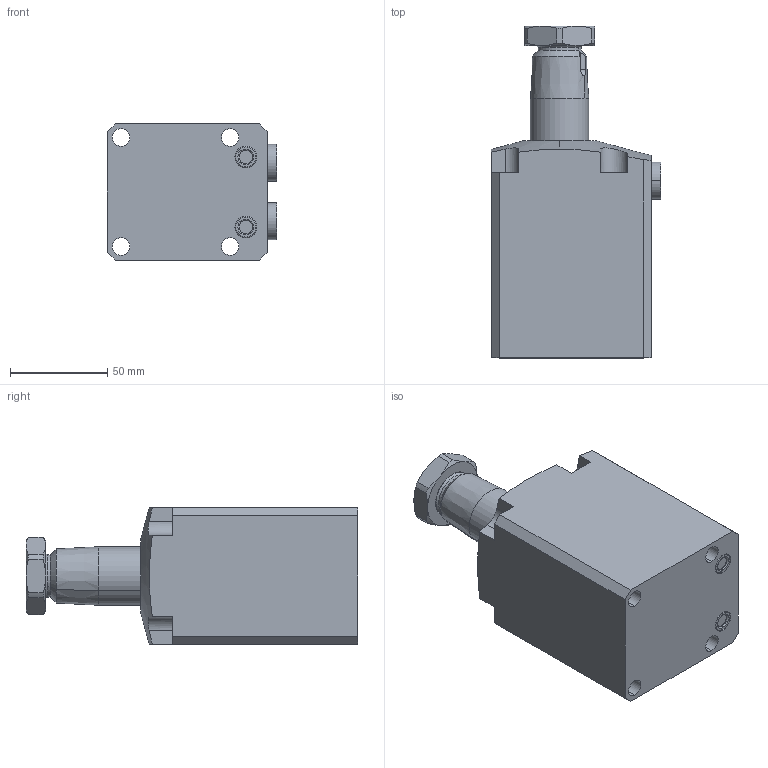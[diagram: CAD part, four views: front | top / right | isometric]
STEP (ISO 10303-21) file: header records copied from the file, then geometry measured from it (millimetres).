
FILE_DESCRIPTION(/* description */ (''),/* implementation_level */ '2;1');
FILE_NAME(/* name */ 'BRC10-LN30.stp',/* time_stamp */ '2025-01-05T09:21:43+08:00',/* author */ (''),/* organization */ (''),/* preprocessor_version */ 'ST-DEVELOPER v16.7',/* originating_system */ 'SIEMENS PLM Software NX 12.0',/* authorisation */ '');
FILE_SCHEMA (('AUTOMOTIVE_DESIGN { 1 0 10303 214 3 1 1 1 }'));
Length unit declared in the file: millimetre
Products named in the file (5): BRC10-LN30-04; BRC10-LN30-03; BRC10-LN30-02; BRC10-LN30-01; BRC10-LN30_stp
Assembly tree (5 placements, depth 2):
  BRC10-LN30_stp
    BRC10-LN30-01
    BRC10-LN30-02
    BRC10-LN30-03  x2
    BRC10-LN30-04
Bounding box: 86.8 x 170.3 x 70 mm (x, y, z)
Volume: 616790.4 mm3; surface area: 69640.9 mm2
Topology: 7 solids, 7 shells, 176 faces, 401 edges, 248 vertices
Faces by surface type: plane 68, cylinder 57, cone 34, torus 16, sphere 1
Full cylindrical faces by diameter (mm): 13.15 x2
Entity records: 4660 total; most frequent: CARTESIAN_POINT 957, DIRECTION 778, ORIENTED_EDGE 712, EDGE_CURVE 356, AXIS2_PLACEMENT_3D 313, VERTEX_POINT 222, EDGE_LOOP 180, ADVANCED_FACE 156
